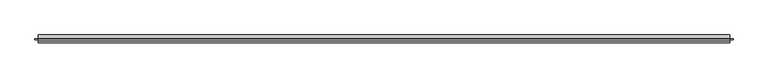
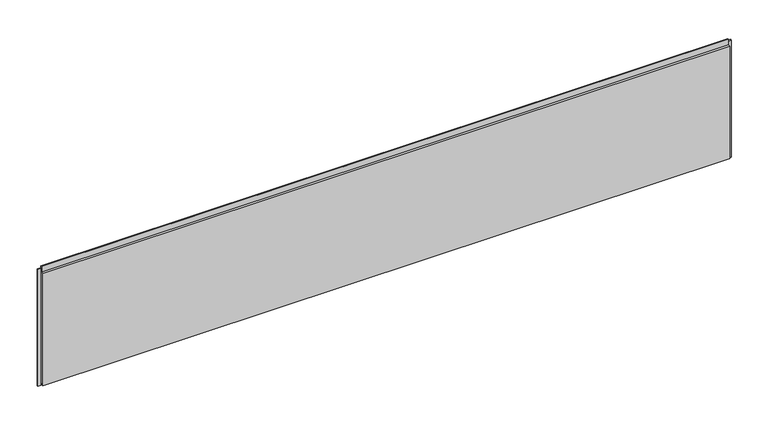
"""IFC4 building model written with IfcOpenShell, lengths in millimetres: plate geometry, Trimo_Qbiss Screen_Normal Panel-HORIZONTAL : HR - B."""

import ifcopenshell
import ifcopenshell.guid

model = None  # the IFC model being written
_history = None  # IfcOwnerHistory: only IFC2X3 demands one
_inside = {}  # id of a spatial element -> (the spatial element, [elements in it])
_under = {}  # id of a project, library or spatial element -> (it, [spatial elements below it])
_declared = {}  # id of a project -> (the project, [libraries it declares])
_typed = {}  # id of a type object -> (the type object, [elements of that type])
_made_of = {}  # id of a material, layer set ... -> (it, [elements and type objects made of it])


def new_model(schema):
    """Start an empty IFC model of exactly this schema.

    Asked for "IFC4X3", IfcOpenShell would pick the latest addendum, in which some entities
    have other attributes; the version numbers below select the first issue.
    IFC2X3 requires an IfcOwnerHistory on every rooted entity: one is made here for all.
    """
    global model, _history
    if schema == "IFC4X3":
        model = ifcopenshell.file(schema_version=(4, 3, 0, 0))
    else:
        model = ifcopenshell.file(schema=schema)
    _inside.clear()
    _under.clear()
    _declared.clear()
    _typed.clear()
    _made_of.clear()
    _history = None
    if model.schema == "IFC2X3":
        org = make("IfcOrganization", Name="unknown")
        user = make(
            "IfcPersonAndOrganization",
            ThePerson=make("IfcPerson", FamilyName="unknown"),
            TheOrganization=org,
        )
        app = make(
            "IfcApplication",
            ApplicationDeveloper=org,
            Version="unknown",
            ApplicationFullName="unknown",
            ApplicationIdentifier="unknown",
        )
        _history = make(
            "IfcOwnerHistory",
            OwningUser=user,
            OwningApplication=app,
            ChangeAction="ADDED",
            CreationDate=0,
        )
    return model


def make(cls, **values):
    """One entity of the class cls with the attributes given. An attribute that is None is left unset."""
    return model.create_entity(
        cls, **{name: value for name, value in values.items() if value is not None}
    )


def rooted(cls, **values):
    """An entity with a GlobalId (a new one), such as an element, a storey or a relation."""
    return make(cls, GlobalId=ifcopenshell.guid.new(), OwnerHistory=_history, **values)


def si_unit(unit_type, name, prefix=None):
    """IfcSIUnit, for example si_unit("LENGTHUNIT", "METRE", prefix="MILLI")."""
    return make("IfcSIUnit", UnitType=unit_type, Prefix=prefix, Name=name)


def assignment(units):
    """IfcUnitAssignment: the units of a project."""
    return None if units is None else make("IfcUnitAssignment", Units=units)


def point(xyz):
    """IfcCartesianPoint."""
    return None if xyz is None else make("IfcCartesianPoint", Coordinates=xyz)


def direction(xyz):
    """IfcDirection."""
    return None if xyz is None else make("IfcDirection", DirectionRatios=xyz)


def frame(location, z_axis=None, x_axis=None):
    """IfcAxis2Placement3D, a coordinate frame: its origin and axes. An axis left out is left unset."""
    return make(
        "IfcAxis2Placement3D",
        Location=point(location),
        Axis=direction(z_axis),
        RefDirection=direction(x_axis),
    )


def origin():
    """The frame at (0, 0, 0) with its axes left unset."""
    return frame((0.0, 0.0, 0.0))


def place(relative_to, where):
    """IfcLocalPlacement: puts the frame where relative to a parent placement (None: the world)."""
    return make(
        "IfcLocalPlacement", PlacementRelTo=relative_to, RelativePlacement=where
    )


def context(
    kind, dimensions, precision=None, world=None, true_north=None, identifier=None
):
    """IfcGeometricRepresentationContext, for example the 3D "Model" context."""
    return make(
        "IfcGeometricRepresentationContext",
        ContextIdentifier=identifier,
        ContextType=kind,
        CoordinateSpaceDimension=dimensions,
        Precision=precision,
        WorldCoordinateSystem=world,
        TrueNorth=true_north,
    )


def project(units=None, contexts=None):
    """IfcProject with its units and contexts."""
    return rooted(
        "IfcProject",
        Name="project",
        RepresentationContexts=contexts,
        UnitsInContext=assignment(units),
    )


def spatial(cls, under=None, at=None, **own):
    """A site, building, storey or space (cls), placed at a placement, below another one or the project."""
    s = rooted(cls, ObjectPlacement=at, **own)
    if under is not None:
        _under.setdefault(under.id(), (under, []))[1].append(s)
    return s


def polyline(points):
    """IfcPolyline through the points."""
    return make("IfcPolyline", Points=[point(p) for p in points])


def outline(outer, holes=None, kind="AREA"):
    """IfcArbitraryClosedProfileDef: a profile drawn as a closed curve; with holes, ...WithVoids."""
    if holes is None:
        return make("IfcArbitraryClosedProfileDef", ProfileType=kind, OuterCurve=outer)
    return make(
        "IfcArbitraryProfileDefWithVoids",
        ProfileType=kind,
        OuterCurve=outer,
        InnerCurves=holes,
    )


def extrude(swept, where, along, depth):
    """IfcExtrudedAreaSolid: the profile swept, set in the frame where, extruded along a direction by depth."""
    return make(
        "IfcExtrudedAreaSolid",
        SweptArea=swept,
        Position=where,
        ExtrudedDirection=direction(along),
        Depth=depth,
    )


def shape(context_of_items, identifier, shape_type, items):
    """IfcShapeRepresentation: the items that make up one representation, for example the "Body"."""
    return make(
        "IfcShapeRepresentation",
        ContextOfItems=context_of_items,
        RepresentationIdentifier=identifier,
        RepresentationType=shape_type,
        Items=items,
    )


def source(mapping_origin, context_of_items, identifier, shape_type, items):
    """IfcRepresentationMap: a shape defined once, which mapped items show again and again."""
    return make(
        "IfcRepresentationMap",
        MappingOrigin=mapping_origin,
        MappedRepresentation=shape(context_of_items, identifier, shape_type, items),
    )


def transform(
    local_origin,
    x_axis=None,
    y_axis=None,
    z_axis=None,
    scale=None,
    scale2=None,
    scale3=None,
    uniform=True,
):
    """IfcCartesianTransformationOperator3D, or its non-uniform kind. x_axis, y_axis, z_axis: its Axis1, 2, 3."""
    if uniform:
        return make(
            "IfcCartesianTransformationOperator3D",
            Axis1=direction(x_axis),
            Axis2=direction(y_axis),
            LocalOrigin=point(local_origin),
            Scale=scale,
            Axis3=direction(z_axis),
        )
    return make(
        "IfcCartesianTransformationOperator3DnonUniform",
        Axis1=direction(x_axis),
        Axis2=direction(y_axis),
        LocalOrigin=point(local_origin),
        Scale=scale,
        Axis3=direction(z_axis),
        Scale2=scale2,
        Scale3=scale3,
    )


def mapped(mapping_source, mapping_target):
    """IfcMappedItem: shows the shape of a source again, moved by a transform."""
    return make(
        "IfcMappedItem", MappingSource=mapping_source, MappingTarget=mapping_target
    )


def made_of(thing, what):
    """Note that an element or type object is made of a material, layer set ...; save() writes the relation."""
    if what is not None:
        _made_of.setdefault(what.id(), (what, []))[1].append(thing)
    return thing


def element(
    cls,
    number,
    at=None,
    inside=None,
    cuts=None,
    type_object=None,
    material=None,
    context=None,
    identifier="Body",
    shape_type=None,
    held_by="IfcProductDefinitionShape",
    body=None,
    shapes=None,
    **own,
):
    """One element of the class cls, such as IfcWall. Its Tag is "e" and its number.

    at: its placement. inside: the storey or other place that contains it. cuts: it is an
    opening in that element (IfcRelVoidsElement). A single representation is given by context,
    identifier, shape_type and body (its items); several are given by shapes. held_by: the class
    of the entity that holds the representations. save() writes the other relations.
    """
    e = rooted(cls, Tag="e%d" % number, ObjectPlacement=at, **own)
    if body is not None:
        shapes = [shape(context, identifier, shape_type, body)]
    if shapes is not None:
        e.Representation = make(held_by, Representations=shapes)
    if inside is not None:
        _inside.setdefault(inside.id(), (inside, []))[1].append(e)
    if cuts is not None:
        rooted(
            "IfcRelVoidsElement", RelatingBuildingElement=cuts, RelatedOpeningElement=e
        )
    if type_object is not None:
        _typed.setdefault(type_object.id(), (type_object, []))[1].append(e)
    return made_of(e, material)


def aggregate(whole, parts):
    """IfcRelAggregates: a whole, such as a stair, and the parts it consists of."""
    return rooted("IfcRelAggregates", RelatingObject=whole, RelatedObjects=parts)


def save(model, path):
    """Write the relations noted so far, then the file.

    IfcRelAggregates (storeys below a building ...), IfcRelContainedInSpatialStructure (elements
    in a storey), IfcRelDefinesByType, IfcRelAssociatesMaterial and IfcRelDeclares: one each for
    every whole, place, type object, material and project.
    """
    for whole, parts in _under.values():
        aggregate(whole, parts)
    for where, things in _inside.values():
        rooted(
            "IfcRelContainedInSpatialStructure",
            RelatedElements=things,
            RelatingStructure=where,
        )
    for kind, things in _typed.values():
        rooted("IfcRelDefinesByType", RelatedObjects=things, RelatingType=kind)
    for what, things in _made_of.values():
        rooted("IfcRelAssociatesMaterial", RelatedObjects=things, RelatingMaterial=what)
    for by, libraries in _declared.values():
        rooted("IfcRelDeclares", RelatingContext=by, RelatedDefinitions=libraries)
    model.write(path)


def plate_ff0cff65(model_context):
    return source(origin(), model_context, "Body", "SweptSolid", [
        extrude(outline(polyline([(-2187.25, 76.5978162), (-2187.25, 67.8978162), (-2206.25, 67.8978162), (-2206.25, 76.5978162), (-2187.25, 76.5978162)])), frame((0.0, 0.0, -1.0), z_axis=(0.0, 0.0, 1.0), x_axis=(1.0, 0.0, 0.0)), (0.0, 0.0, 1.0), 787.95),
        extrude(outline(polyline([(2191.75, 67.8978162), (2191.75, 76.5978162), (2210.75, 76.5978162), (2210.75, 67.8978162), (2191.75, 67.8978162)])), frame((0.0, 0.0, -1.0), z_axis=(0.0, 0.0, 1.0), x_axis=(1.0, 0.0, 0.0)), (0.0, 0.0, 1.0), 787.95),
        extrude(outline(polyline([(2188.75, 76.0), (2188.75, 71.0), (-2184.25, 71.0), (-2184.25, 76.0), (2188.75, 76.0)])), frame((0.0, 0.0, 765.95), z_axis=(0.0, 0.0, 1.0), x_axis=(1.0, 0.0, 0.0)), (0.0, 0.0, 1.0), 21.0),
        extrude(outline(polyline([(71.0, 764.95), (100.0, 764.95), (100.0, 0.0), (72.0, 0.0), (72.0, 15.5), (62.0, 15.5), (62.0, 7.0), (50.0, 7.0), (50.0, 764.95), (63.0, 764.95), (63.0, 802.45), (71.0, 802.45), (71.0, 764.95)])), frame((-2184.25, 0.0, 0.0), z_axis=(1.0, 0.0, 0.0), x_axis=(0.0, 1.0, 0.0)), (0.0, 0.0, 1.0), 4373.0),
    ])


if __name__ == "__main__":
    model = new_model("IFC4")
    model_context = context("Model", 3, world=origin())
    ifc_project = project(units=[si_unit("LENGTHUNIT", "METRE", prefix="MILLI")], contexts=[model_context])
    site = spatial("IfcSite", under=ifc_project)
    building = spatial("IfcBuilding", under=site)
    placement = place(None, origin())
    plate_shape = plate_ff0cff65(model_context)
    element("IfcPlate", 1, ObjectType="Trimo_Qbiss Screen_Normal Panel-HORIZONTAL : HR - B", at=placement, inside=building, context=model_context, shape_type="MappedRepresentation", body=[
        mapped(plate_shape, transform((0.0, 0.0, 0.0), x_axis=(1.0, 0.0, 0.0), y_axis=(0.0, 1.0, 0.0), z_axis=(0.0, 0.0, 1.0))),
    ])
    save(model, "model.ifc")
